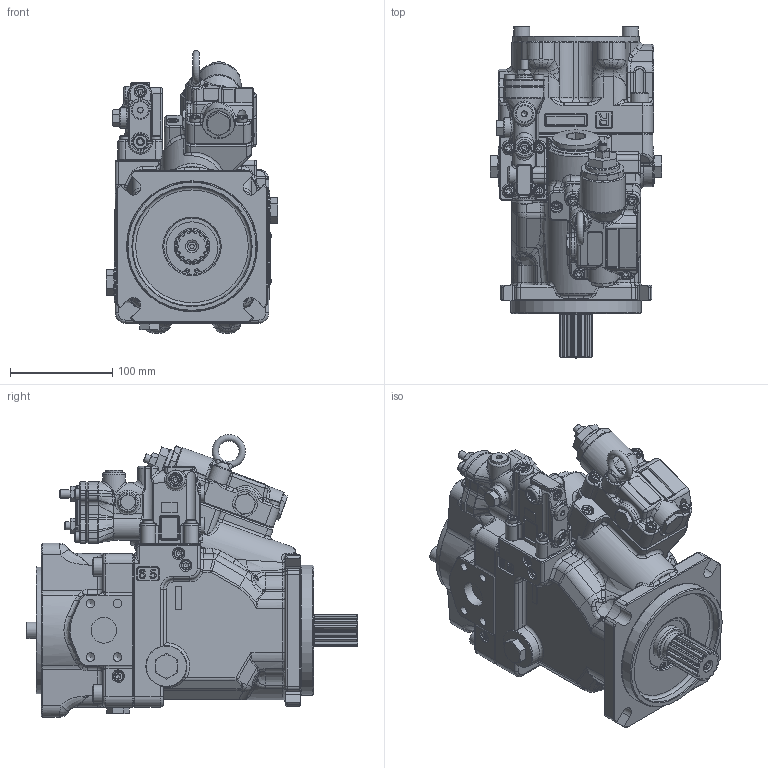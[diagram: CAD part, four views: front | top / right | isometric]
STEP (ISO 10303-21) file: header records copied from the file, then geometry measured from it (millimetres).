
FILE_DESCRIPTION(/* description */ (''),/* implementation_level */ '2;1');
FILE_NAME(/* name */ 'K3VLS65-1NRCH-L1ABH2.stp',/* time_stamp */ '2025-09-23T13:22:48+01:00',/* author */ ('jhatcher'),/* organization */ (''),/* preprocessor_version */ 'ST-DEVELOPER v20',/* originating_system */ 'Autodesk Inventor 2024',/* authorisation */ '');
FILE_SCHEMA (('AUTOMOTIVE_DESIGN { 1 0 10303 214 3 1 1 }'));
Products named in the file (1): K3VLS65-1NRCH-L1ABH2
Bounding box: 167.84 x 324 x 276.03 mm (x, y, z)
Volume: 5741164.6 mm3; surface area: 304122.5 mm2
Topology: 1 solids, 1 shells, 3430 faces, 8638 edges, 5270 vertices
Faces by surface type: plane 1398, cylinder 818, bspline 603, cone 393, torus 195, sphere 23
Full cylindrical faces by diameter (mm): 2.5 x2, 4 x4, 8 x3, 8.376 x8, 9.4 x9, 9.738 x1, 10 x12, 10.106 x4, 11 x12, 12 x9, 16 x5, 18 x8, 20 x5, 21 x1, 22 x1, 24 x2, 25 x2, 26 x1, 33 x1, 35 x1, 45 x1, 50 x1, 55 x1, 58 x1, 116 x1, 124 x1, 127 x1
Entity records: 122166 total; most frequent: CARTESIAN_POINT 44118, ORIENTED_EDGE 17044, DIRECTION 15150, EDGE_CURVE 8522, AXIS2_PLACEMENT_3D 5555, VERTEX_POINT 5270, LINE 4040, VECTOR 4040
